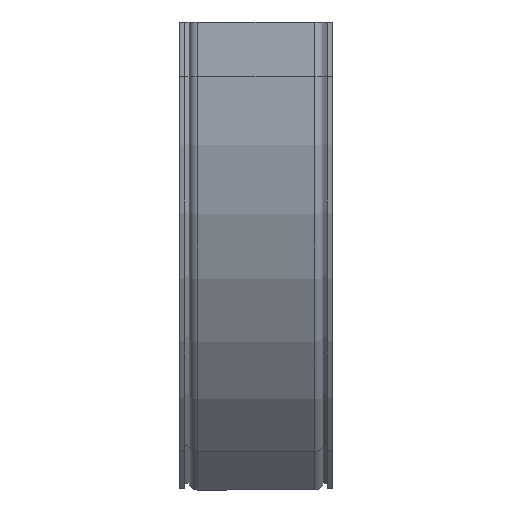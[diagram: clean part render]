
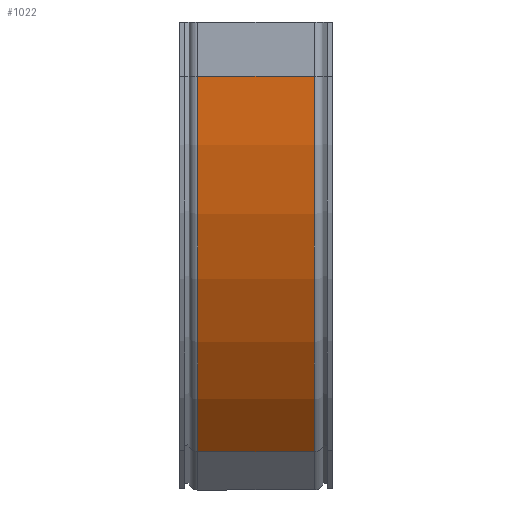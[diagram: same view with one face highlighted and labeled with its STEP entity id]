
A CAD part, left-side view. The second image highlights one B-rep face of the part: STEP entity #1022.
In plain terms, the highlighted cylindrical face has radius 392.5 mm (diameter 785 mm), a partial arc.
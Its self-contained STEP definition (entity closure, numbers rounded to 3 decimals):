
#145 = CARTESIAN_POINT ( 'NONE',  ( 72.461, -43., -317.539 ) ) ;
#653 = DIRECTION ( 'NONE',  ( 0., 1., 0. ) ) ;
#1022 = ADVANCED_FACE ( 'NONE', ( #4349 ), #4220, .T. ) ;
#1038 = DIRECTION ( 'NONE',  ( 0., 0., 1. ) ) ;
#1050 = CARTESIAN_POINT ( 'NONE',  ( -42.5, 0., -40. ) ) ;
#1131 = VECTOR ( 'NONE', #653, 1000. ) ;
#1148 = DIRECTION ( 'NONE',  ( 0., 1., 0. ) ) ;
#1192 = LINE ( 'NONE', #1050, #1131 ) ;
#1245 = ORIENTED_EDGE ( 'NONE', *, *, #4296, .F. ) ;
#1391 = VERTEX_POINT ( 'NONE', #2821 ) ;
#1414 = CARTESIAN_POINT ( 'NONE',  ( 72.461, 43., -317.539 ) ) ;
#1559 = ORIENTED_EDGE ( 'NONE', *, *, #4301, .T. ) ;
#1573 = CARTESIAN_POINT ( 'NONE',  ( 350., -43., -40. ) ) ;
#1595 = VECTOR ( 'NONE', #2305, 1000. ) ;
#1613 = ORIENTED_EDGE ( 'NONE', *, *, #2501, .T. ) ;
#1646 = CIRCLE ( 'NONE', #5594, 392.5 ) ;
#1671 = LINE ( 'NONE', #2815, #1595 ) ;
#1721 = CIRCLE ( 'NONE', #5456, 392.5 ) ;
#1862 = AXIS2_PLACEMENT_3D ( 'NONE', #3446, #4198, #4482 ) ;
#2305 = DIRECTION ( 'NONE',  ( 0., -1., 0. ) ) ;
#2501 = EDGE_CURVE ( 'NONE', #1391, #4368, #1192, .T. ) ;
#2696 = DIRECTION ( 'NONE',  ( 0., 0., 1. ) ) ;
#2722 = DIRECTION ( 'NONE',  ( 0., 1., 0. ) ) ;
#2815 = CARTESIAN_POINT ( 'NONE',  ( 72.461, 43., -317.539 ) ) ;
#2821 = CARTESIAN_POINT ( 'NONE',  ( -42.5, -43., -40. ) ) ;
#3192 = CARTESIAN_POINT ( 'NONE',  ( 350., 43., -40. ) ) ;
#3446 = CARTESIAN_POINT ( 'NONE',  ( 350., 0., -40. ) ) ;
#3880 = VERTEX_POINT ( 'NONE', #145 ) ;
#3961 = ORIENTED_EDGE ( 'NONE', *, *, #4312, .T. ) ;
#4183 = CARTESIAN_POINT ( 'NONE',  ( -42.5, 43., -40. ) ) ;
#4198 = DIRECTION ( 'NONE',  ( 0., 1., 0. ) ) ;
#4200 = VERTEX_POINT ( 'NONE', #1414 ) ;
#4220 = CYLINDRICAL_SURFACE ( 'NONE', #1862, 392.5 ) ;
#4296 = EDGE_CURVE ( 'NONE', #4200, #4368, #1721, .T. ) ;
#4301 = EDGE_CURVE ( 'NONE', #4200, #3880, #1671, .T. ) ;
#4312 = EDGE_CURVE ( 'NONE', #3880, #1391, #1646, .T. ) ;
#4349 = FACE_OUTER_BOUND ( 'NONE', #4510, .T. ) ;
#4368 = VERTEX_POINT ( 'NONE', #4183 ) ;
#4482 = DIRECTION ( 'NONE',  ( 0., 0., 1. ) ) ;
#4510 = EDGE_LOOP ( 'NONE', ( #1613, #1245, #1559, #3961 ) ) ;
#5456 = AXIS2_PLACEMENT_3D ( 'NONE', #3192, #2722, #2696 ) ;
#5594 = AXIS2_PLACEMENT_3D ( 'NONE', #1573, #1148, #1038 ) ;
